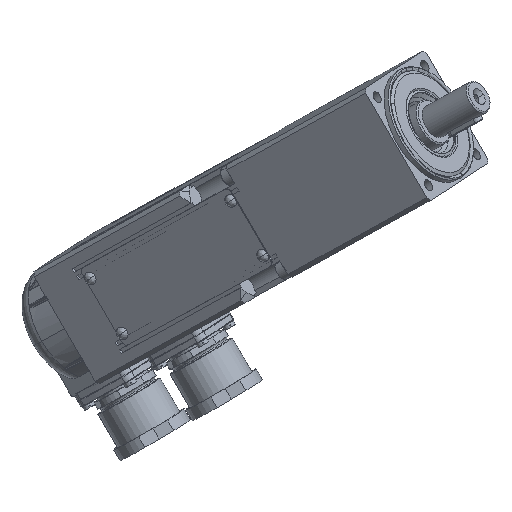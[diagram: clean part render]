
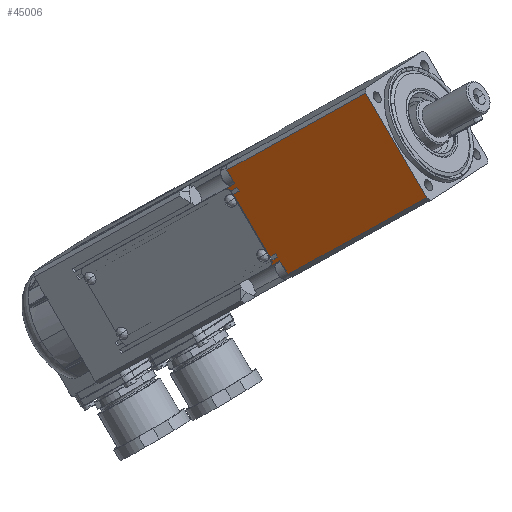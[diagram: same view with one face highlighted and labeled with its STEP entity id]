
A CAD part, front view. The second image highlights one B-rep face of the part: STEP entity #45006.
In plain terms, the highlighted planar face has unit normal (-0.468, -0.83, -0.304).
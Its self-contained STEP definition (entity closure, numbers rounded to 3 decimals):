
#11817=CARTESIAN_POINT('',(143.683,-261.212,424.34));
#11818=VERTEX_POINT('',#11817);
#11827=CARTESIAN_POINT('',(143.602,-261.533,425.339));
#11828=VERTEX_POINT('',#11827);
#11829=CARTESIAN_POINT('',(141.944,-260.47,424.993));
#11830=DIRECTION('',(0.468,0.829,0.304));
#11831=DIRECTION('',(0.869,-0.371,-0.327));
#11832=AXIS2_PLACEMENT_3D('',#11829,#11830,#11831);
#11833=CIRCLE('',#11832,2.);
#11834=EDGE_CURVE('',#11828,#11818,#11833,.T.);
#11870=CARTESIAN_POINT('',(128.679,-262.193,450.101));
#11871=VERTEX_POINT('',#11870);
#11895=CARTESIAN_POINT('',(129.519,-262.454,449.522));
#11896=VERTEX_POINT('',#11895);
#11904=CARTESIAN_POINT('',(128.363,-261.358,448.312));
#11905=DIRECTION('',(0.468,0.829,0.304));
#11906=DIRECTION('',(0.158,-0.418,0.895));
#11907=AXIS2_PLACEMENT_3D('',#11904,#11905,#11906);
#11908=CIRCLE('',#11907,2.);
#11909=EDGE_CURVE('',#11871,#11896,#11908,.T.);
#44443=CARTESIAN_POINT('',(176.185,-301.192,483.283));
#44444=VERTEX_POINT('',#44443);
#44452=CARTESIAN_POINT('',(197.27,-299.813,447.079));
#44453=VERTEX_POINT('',#44452);
#44454=CARTESIAN_POINT('',(197.27,-299.813,447.079));
#44455=DIRECTION('',(-0.503,-0.033,0.864));
#44456=VECTOR('',#44455,41.92);
#44457=LINE('',#44454,#44456);
#44458=EDGE_CURVE('',#44453,#44444,#44457,.T.);
#44505=CARTESIAN_POINT('',(142.894,-261.618,426.66));
#44506=VERTEX_POINT('',#44505);
#44603=CARTESIAN_POINT('',(130.319,-262.44,448.252));
#44604=VERTEX_POINT('',#44603);
#44653=CARTESIAN_POINT('',(127.357,-261.424,450.039));
#44654=VERTEX_POINT('',#44653);
#44655=CARTESIAN_POINT('',(128.363,-261.358,448.312));
#44656=DIRECTION('',(0.468,0.829,0.304));
#44657=DIRECTION('',(0.158,-0.418,0.895));
#44658=AXIS2_PLACEMENT_3D('',#44655,#44656,#44657);
#44659=CIRCLE('',#44658,2.);
#44660=EDGE_CURVE('',#44654,#11871,#44659,.T.);
#44679=CARTESIAN_POINT('',(142.95,-260.404,423.266));
#44680=VERTEX_POINT('',#44679);
#44687=CARTESIAN_POINT('',(141.944,-260.47,424.993));
#44688=DIRECTION('',(0.468,0.829,0.304));
#44689=DIRECTION('',(0.869,-0.371,-0.327));
#44690=AXIS2_PLACEMENT_3D('',#44687,#44688,#44689);
#44691=CIRCLE('',#44690,2.);
#44692=EDGE_CURVE('',#11818,#44680,#44691,.T.);
#44710=CARTESIAN_POINT('',(130.319,-262.44,448.252));
#44711=DIRECTION('',(0.503,0.033,-0.864));
#44712=VECTOR('',#44711,25.);
#44713=LINE('',#44710,#44712);
#44714=EDGE_CURVE('',#44604,#44506,#44713,.T.);
#44905=CARTESIAN_POINT('',(72.493,-221.597,425.924));
#44906=DIRECTION('',(-0.468,-0.829,-0.304));
#44907=DIRECTION('',(-0.726,0.558,-0.402));
#44908=AXIS2_PLACEMENT_3D('',#44905,#44906,#44907);
#44909=PLANE('',#44908);
#44910=ORIENTED_EDGE('',*,*,#44660,.T.);
#44911=ORIENTED_EDGE('',*,*,#11909,.T.);
#44912=CARTESIAN_POINT('',(131.562,-264.023,450.652));
#44913=VERTEX_POINT('',#44912);
#44914=CARTESIAN_POINT('',(129.519,-262.454,449.522));
#44915=DIRECTION('',(0.726,-0.558,0.402));
#44916=VECTOR('',#44915,2.814);
#44917=LINE('',#44914,#44916);
#44918=EDGE_CURVE('',#11896,#44913,#44917,.T.);
#44919=ORIENTED_EDGE('',*,*,#44918,.T.);
#44920=CARTESIAN_POINT('',(132.317,-263.974,449.357));
#44921=VERTEX_POINT('',#44920);
#44922=CARTESIAN_POINT('',(131.562,-264.023,450.652));
#44923=DIRECTION('',(0.503,0.033,-0.864));
#44924=VECTOR('',#44923,1.5);
#44925=LINE('',#44922,#44924);
#44926=EDGE_CURVE('',#44913,#44921,#44925,.T.);
#44927=ORIENTED_EDGE('',*,*,#44926,.T.);
#44928=CARTESIAN_POINT('',(132.317,-263.974,449.357));
#44929=DIRECTION('',(-0.726,0.558,-0.402));
#44930=VECTOR('',#44929,2.75);
#44931=LINE('',#44928,#44930);
#44932=EDGE_CURVE('',#44921,#44604,#44931,.T.);
#44933=ORIENTED_EDGE('',*,*,#44932,.T.);
#44934=ORIENTED_EDGE('',*,*,#44714,.T.);
#44935=CARTESIAN_POINT('',(144.892,-263.151,427.765));
#44936=VERTEX_POINT('',#44935);
#44937=CARTESIAN_POINT('',(142.894,-261.618,426.66));
#44938=DIRECTION('',(0.726,-0.558,0.402));
#44939=VECTOR('',#44938,2.75);
#44940=LINE('',#44937,#44939);
#44941=EDGE_CURVE('',#44506,#44936,#44940,.T.);
#44942=ORIENTED_EDGE('',*,*,#44941,.T.);
#44943=CARTESIAN_POINT('',(145.646,-263.102,426.47));
#44944=VERTEX_POINT('',#44943);
#44945=CARTESIAN_POINT('',(144.892,-263.151,427.765));
#44946=DIRECTION('',(0.503,0.033,-0.864));
#44947=VECTOR('',#44946,1.5);
#44948=LINE('',#44945,#44947);
#44949=EDGE_CURVE('',#44936,#44944,#44948,.T.);
#44950=ORIENTED_EDGE('',*,*,#44949,.T.);
#44951=CARTESIAN_POINT('',(145.646,-263.102,426.47));
#44952=DIRECTION('',(-0.726,0.558,-0.402));
#44953=VECTOR('',#44952,2.814);
#44954=LINE('',#44951,#44953);
#44955=EDGE_CURVE('',#44944,#11828,#44954,.T.);
#44956=ORIENTED_EDGE('',*,*,#44955,.T.);
#44957=ORIENTED_EDGE('',*,*,#11834,.T.);
#44958=ORIENTED_EDGE('',*,*,#44692,.T.);
#44959=CARTESIAN_POINT('',(146.401,-263.053,425.174));
#44960=VERTEX_POINT('',#44959);
#44961=CARTESIAN_POINT('',(142.95,-260.404,423.266));
#44962=DIRECTION('',(0.726,-0.558,0.402));
#44963=VECTOR('',#44962,4.75);
#44964=LINE('',#44961,#44963);
#44965=EDGE_CURVE('',#44680,#44960,#44964,.T.);
#44966=ORIENTED_EDGE('',*,*,#44965,.T.);
#44967=CARTESIAN_POINT('',(149.147,-262.873,420.459));
#44968=VERTEX_POINT('',#44967);
#44969=CARTESIAN_POINT('',(146.401,-263.053,425.174));
#44970=DIRECTION('',(0.503,0.033,-0.864));
#44971=VECTOR('',#44970,5.46);
#44972=LINE('',#44969,#44971);
#44973=EDGE_CURVE('',#44960,#44968,#44972,.T.);
#44974=ORIENTED_EDGE('',*,*,#44973,.T.);
#44975=CARTESIAN_POINT('',(149.147,-262.873,420.459));
#44976=DIRECTION('',(0.726,-0.558,0.402));
#44977=VECTOR('',#44976,66.25);
#44978=LINE('',#44975,#44977);
#44979=EDGE_CURVE('',#44968,#44453,#44978,.T.);
#44980=ORIENTED_EDGE('',*,*,#44979,.T.);
#44981=ORIENTED_EDGE('',*,*,#44458,.T.);
#44982=CARTESIAN_POINT('',(128.061,-264.252,456.663));
#44983=VERTEX_POINT('',#44982);
#44984=CARTESIAN_POINT('',(128.061,-264.252,456.663));
#44985=DIRECTION('',(0.726,-0.558,0.402));
#44986=VECTOR('',#44985,66.25);
#44987=LINE('',#44984,#44986);
#44988=EDGE_CURVE('',#44983,#44444,#44987,.T.);
#44989=ORIENTED_EDGE('',*,*,#44988,.F.);
#44990=CARTESIAN_POINT('',(130.808,-264.072,451.948));
#44991=VERTEX_POINT('',#44990);
#44992=CARTESIAN_POINT('',(128.061,-264.252,456.663));
#44993=DIRECTION('',(0.503,0.033,-0.864));
#44994=VECTOR('',#44993,5.46);
#44995=LINE('',#44992,#44994);
#44996=EDGE_CURVE('',#44983,#44991,#44995,.T.);
#44997=ORIENTED_EDGE('',*,*,#44996,.T.);
#44998=CARTESIAN_POINT('',(130.808,-264.072,451.948));
#44999=DIRECTION('',(-0.726,0.558,-0.402));
#45000=VECTOR('',#44999,4.75);
#45001=LINE('',#44998,#45000);
#45002=EDGE_CURVE('',#44991,#44654,#45001,.T.);
#45003=ORIENTED_EDGE('',*,*,#45002,.T.);
#45004=EDGE_LOOP('',(#44910,#44911,#44919,#44927,#44933,#44934,#44942,#44950,#44956,#44957,#44958,#44966,#44974,#44980,#44981,#44989,#44997,#45003));
#45005=FACE_OUTER_BOUND('',#45004,.T.);
#45006=ADVANCED_FACE('',(#45005),#44909,.T.);
